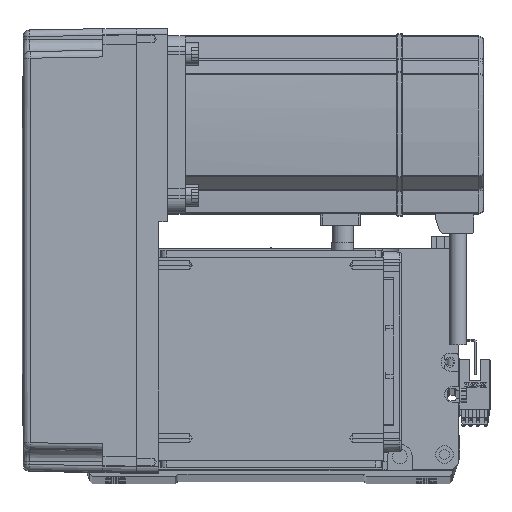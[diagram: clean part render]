
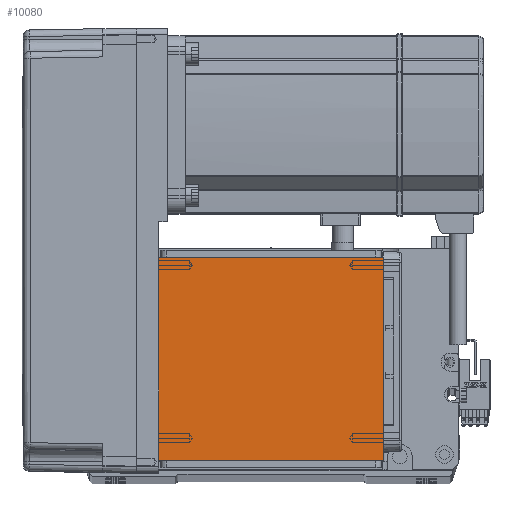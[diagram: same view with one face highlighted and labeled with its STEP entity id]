
A CAD part, top view. The second image highlights one B-rep face of the part: STEP entity #10080.
In plain terms, the highlighted planar face has unit normal (0, 0, 1).
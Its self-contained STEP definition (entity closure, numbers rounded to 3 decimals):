
#1344 = CARTESIAN_POINT ( 'NONE',  ( 50.5, 20., 115. ) ) ;
#1370 = CARTESIAN_POINT ( 'NONE',  ( 50.5, 111.5, 115. ) ) ;
#3876 = DIRECTION ( 'NONE',  ( 1., 0., 0. ) ) ;
#10080 = ADVANCED_FACE ( 'NONE', ( #51880 ), #23734, .T. ) ;
#13480 = VERTEX_POINT ( 'NONE', #16008 ) ;
#14264 = CARTESIAN_POINT ( 'NONE',  ( 0., 0., 115. ) ) ;
#14975 = DIRECTION ( 'NONE',  ( 0., 1., 0. ) ) ;
#16008 = CARTESIAN_POINT ( 'NONE',  ( -50.5, 111.5, 115. ) ) ;
#16735 = CARTESIAN_POINT ( 'NONE',  ( -50.5, 122., 115. ) ) ;
#17273 = VECTOR ( 'NONE', #31197, 1000. ) ;
#18616 = LINE ( 'NONE', #16735, #42272 ) ;
#21000 = ORIENTED_EDGE ( 'NONE', *, *, #52329, .T. ) ;
#23734 = PLANE ( 'NONE',  #43704 ) ;
#24947 = ORIENTED_EDGE ( 'NONE', *, *, #56228, .T. ) ;
#26374 = LINE ( 'NONE', #59927, #53002 ) ;
#27495 = DIRECTION ( 'NONE',  ( 1., 0., 0. ) ) ;
#31197 = DIRECTION ( 'NONE',  ( -1., 0., 0. ) ) ;
#34446 = ORIENTED_EDGE ( 'NONE', *, *, #55054, .F. ) ;
#36970 = VERTEX_POINT ( 'NONE', #44516 ) ;
#37186 = DIRECTION ( 'NONE',  ( 0., 0., 1. ) ) ;
#39458 = DIRECTION ( 'NONE',  ( 0., -1., 0. ) ) ;
#39946 = VERTEX_POINT ( 'NONE', #1344 ) ;
#42272 = VECTOR ( 'NONE', #39458, 1000. ) ;
#43293 = CARTESIAN_POINT ( 'NONE',  ( 50.5, 122., 115. ) ) ;
#43704 = AXIS2_PLACEMENT_3D ( 'NONE', #14264, #37186, #27495 ) ;
#44516 = CARTESIAN_POINT ( 'NONE',  ( -50.5, 20., 115. ) ) ;
#46202 = LINE ( 'NONE', #43293, #50626 ) ;
#48021 = VERTEX_POINT ( 'NONE', #1370 ) ;
#49443 = ORIENTED_EDGE ( 'NONE', *, *, #56848, .F. ) ;
#50626 = VECTOR ( 'NONE', #14975, 1000. ) ;
#51880 = FACE_OUTER_BOUND ( 'NONE', #56694, .T. ) ;
#52329 = EDGE_CURVE ( 'NONE', #13480, #36970, #18616, .T. ) ;
#53002 = VECTOR ( 'NONE', #3876, 1000. ) ;
#55054 = EDGE_CURVE ( 'NONE', #13480, #48021, #26374, .T. ) ;
#56228 = EDGE_CURVE ( 'NONE', #39946, #48021, #46202, .T. ) ;
#56398 = LINE ( 'NONE', #60238, #17273 ) ;
#56694 = EDGE_LOOP ( 'NONE', ( #34446, #21000, #49443, #24947 ) ) ;
#56848 = EDGE_CURVE ( 'NONE', #39946, #36970, #56398, .T. ) ;
#59927 = CARTESIAN_POINT ( 'NONE',  ( -70.004, 111.5, 115. ) ) ;
#60238 = CARTESIAN_POINT ( 'NONE',  ( -70.004, 20., 115. ) ) ;
